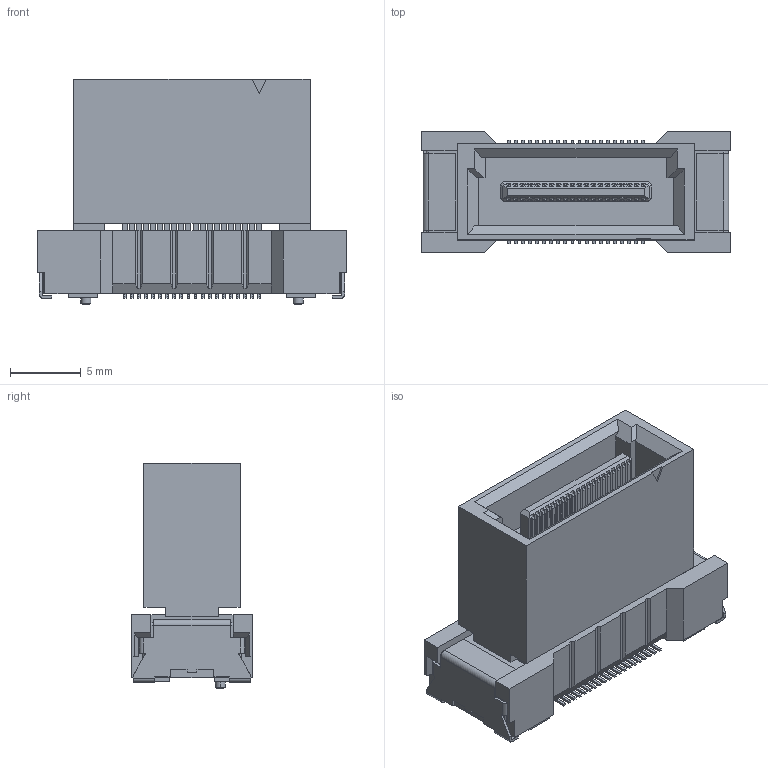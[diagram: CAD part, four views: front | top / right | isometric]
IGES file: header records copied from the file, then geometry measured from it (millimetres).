
Start section: Elysium IGES Interface
Global section: file name: 146HG:\その他\DT関連\【59期以前】\DT_CADﾃﾞｰﾀ\DT_3DCAD\DT0□\FS-10\60-36-0113_WEBサイトアップロード用\ボス有り_DT01-XXXFS-10\P3E104_DT01-040FS-10-T.igs; native system: Creo Elements/Direct Modeling 20.4A  18-Oct-2021; preprocessor: Creo Element/Direct IGES_3D V2.2; author: Unknown; organization: Unknown; date: 20220225.172610; units: millimetre
Bounding box: 21.8 x 8.5 x 15.95 mm (x, y, z)
Volume: 1654.5 mm3; surface area: 1659.4 mm2
Topology: 1 solids, 1 shells, 1295 faces, 3637 edges, 2386 vertices
Faces by surface type: bspline 1295
